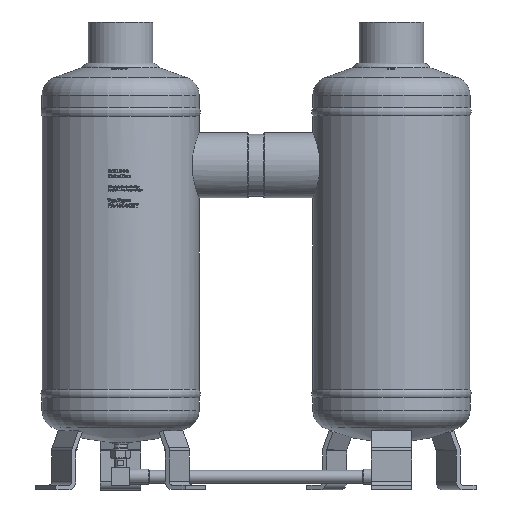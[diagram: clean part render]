
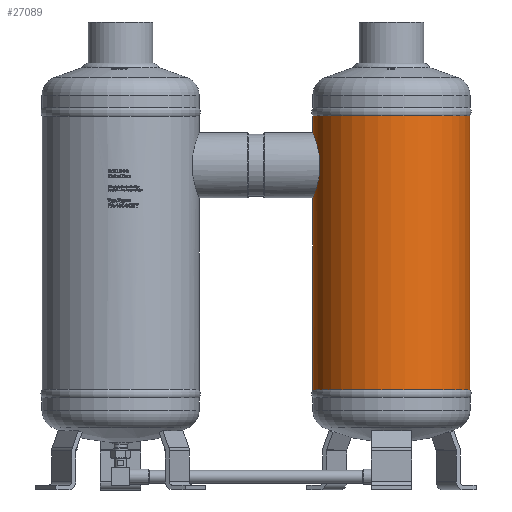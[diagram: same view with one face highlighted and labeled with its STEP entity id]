
A CAD part, top view. The second image highlights one B-rep face of the part: STEP entity #27089.
In plain terms, the highlighted cylindrical face has radius 136.5 mm (diameter 273 mm), a full revolution.
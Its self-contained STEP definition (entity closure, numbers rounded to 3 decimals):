
#1240=B_SPLINE_CURVE_WITH_KNOTS('',3,(#56785,#56786,#56787,#56788,#56789,
#56790,#56791,#56792,#56793,#56794,#56795,#56796,#56797,#56798,#56799,#56800,
#56801,#56802,#56803,#56804,#56805,#56806,#56807,#56808,#56809,#56810,#56811,
#56812,#56813,#56814,#56815,#56816,#56817,#56818,#56819),.UNSPECIFIED.,
 .F.,.F.,(4,2,2,2,2,2,2,2,3,2,2,2,2,2,2,2,4),(25.81,26.885,
27.96,29.035,30.11,31.186,32.262,
33.338,34.414,35.49,36.566,37.642,
38.718,39.793,40.868,41.943,43.017),
 .UNSPECIFIED.);
#1241=B_SPLINE_CURVE_WITH_KNOTS('',3,(#56820,#56821,#56822,#56823,#56824,
#56825,#56826,#56827,#56828,#56829,#56830,#56831,#56832,#56833,#56834,#56835,
#56836,#56837,#56838,#56839,#56840,#56841,#56842,#56843,#56844,#56845,#56846,
#56847,#56848,#56849,#56850,#56851,#56852,#56853),.UNSPECIFIED.,.F.,.F.,
(4,2,2,2,2,2,2,2,2,2,2,2,2,2,2,2,4),(8.603,9.678,
10.753,11.828,12.903,13.979,15.055,
16.131,17.207,18.283,19.359,20.435,
21.511,22.586,23.661,24.736,25.81),
 .UNSPECIFIED.);
#2760=FACE_BOUND('',#6025,.T.);
#2761=FACE_BOUND('',#6026,.T.);
#4255=FACE_OUTER_BOUND('',#6024,.T.);
#6024=EDGE_LOOP('',(#25248));
#6025=EDGE_LOOP('',(#25249,#25250));
#6026=EDGE_LOOP('',(#25251));
#10905=CIRCLE('',#29273,136.5);
#10906=CIRCLE('',#29274,136.5);
#13554=VERTEX_POINT('',#56781);
#13555=VERTEX_POINT('',#56783);
#13556=VERTEX_POINT('',#56784);
#13557=VERTEX_POINT('',#56854);
#17465=EDGE_CURVE('',#13554,#13554,#10905,.T.);
#17466=EDGE_CURVE('',#13555,#13556,#1240,.T.);
#17467=EDGE_CURVE('',#13556,#13555,#1241,.T.);
#17468=EDGE_CURVE('',#13557,#13557,#10906,.T.);
#25248=ORIENTED_EDGE('',*,*,#17465,.T.);
#25249=ORIENTED_EDGE('',*,*,#17466,.T.);
#25250=ORIENTED_EDGE('',*,*,#17467,.T.);
#25251=ORIENTED_EDGE('',*,*,#17468,.T.);
#25600=CYLINDRICAL_SURFACE('',#29272,136.5);
#27089=ADVANCED_FACE('',(#4255,#2760,#2761),#25600,.T.);
#29272=AXIS2_PLACEMENT_3D('',#56780,#35470,#35471);
#29273=AXIS2_PLACEMENT_3D('',#56782,#35472,#35473);
#29274=AXIS2_PLACEMENT_3D('',#56855,#35474,#35475);
#35470=DIRECTION('center_axis',(0.,-1.,0.));
#35471=DIRECTION('ref_axis',(1.,0.,0.));
#35472=DIRECTION('center_axis',(0.,1.,0.));
#35473=DIRECTION('ref_axis',(1.,0.,0.));
#35474=DIRECTION('center_axis',(0.,-1.,0.));
#35475=DIRECTION('ref_axis',(1.,0.,0.));
#56780=CARTESIAN_POINT('Origin',(471.,242.5,0.));
#56781=CARTESIAN_POINT('',(471.,5.,136.5));
#56782=CARTESIAN_POINT('Origin',(471.,5.,0.));
#56783=CARTESIAN_POINT('',(334.5,451.35,0.));
#56784=CARTESIAN_POINT('',(334.5,338.65,0.));
#56785=CARTESIAN_POINT('Ctrl Pts',(334.5,451.35,0.));
#56786=CARTESIAN_POINT('Ctrl Pts',(334.5,451.35,3.583));
#56787=CARTESIAN_POINT('Ctrl Pts',(334.645,451.003,7.274));
#56788=CARTESIAN_POINT('Ctrl Pts',(335.233,449.556,14.592));
#56789=CARTESIAN_POINT('Ctrl Pts',(335.676,448.456,18.217));
#56790=CARTESIAN_POINT('Ctrl Pts',(336.791,445.567,25.147));
#56791=CARTESIAN_POINT('Ctrl Pts',(337.463,443.775,28.459));
#56792=CARTESIAN_POINT('Ctrl Pts',(338.913,439.653,34.569));
#56793=CARTESIAN_POINT('Ctrl Pts',(339.689,437.322,37.369));
#56794=CARTESIAN_POINT('Ctrl Pts',(341.202,432.366,42.325));
#56795=CARTESIAN_POINT('Ctrl Pts',(341.993,429.565,44.656));
#56796=CARTESIAN_POINT('Ctrl Pts',(343.494,423.455,48.777));
#56797=CARTESIAN_POINT('Ctrl Pts',(344.202,420.146,50.568));
#56798=CARTESIAN_POINT('Ctrl Pts',(345.392,413.22,53.455));
#56799=CARTESIAN_POINT('Ctrl Pts',(345.873,409.596,54.554));
#56800=CARTESIAN_POINT('Ctrl Pts',(346.514,402.28,56.002));
#56801=CARTESIAN_POINT('Ctrl Pts',(346.674,398.587,56.35));
#56802=CARTESIAN_POINT('Ctrl Pts',(346.674,395.,56.35));
#56803=CARTESIAN_POINT('Ctrl Pts',(346.674,391.413,56.35));
#56804=CARTESIAN_POINT('Ctrl Pts',(346.514,387.72,56.002));
#56805=CARTESIAN_POINT('Ctrl Pts',(345.873,380.404,54.554));
#56806=CARTESIAN_POINT('Ctrl Pts',(345.392,376.78,53.455));
#56807=CARTESIAN_POINT('Ctrl Pts',(344.202,369.854,50.568));
#56808=CARTESIAN_POINT('Ctrl Pts',(343.494,366.545,48.777));
#56809=CARTESIAN_POINT('Ctrl Pts',(341.993,360.435,44.656));
#56810=CARTESIAN_POINT('Ctrl Pts',(341.202,357.634,42.325));
#56811=CARTESIAN_POINT('Ctrl Pts',(339.689,352.678,37.369));
#56812=CARTESIAN_POINT('Ctrl Pts',(338.913,350.347,34.569));
#56813=CARTESIAN_POINT('Ctrl Pts',(337.463,346.225,28.459));
#56814=CARTESIAN_POINT('Ctrl Pts',(336.791,344.433,25.147));
#56815=CARTESIAN_POINT('Ctrl Pts',(335.676,341.544,18.217));
#56816=CARTESIAN_POINT('Ctrl Pts',(335.233,340.444,14.592));
#56817=CARTESIAN_POINT('Ctrl Pts',(334.645,338.997,7.274));
#56818=CARTESIAN_POINT('Ctrl Pts',(334.5,338.65,3.583));
#56819=CARTESIAN_POINT('Ctrl Pts',(334.5,338.65,0.));
#56820=CARTESIAN_POINT('Ctrl Pts',(334.5,338.65,0.));
#56821=CARTESIAN_POINT('Ctrl Pts',(334.5,338.65,-3.583));
#56822=CARTESIAN_POINT('Ctrl Pts',(334.645,338.997,-7.274));
#56823=CARTESIAN_POINT('Ctrl Pts',(335.233,340.444,-14.592));
#56824=CARTESIAN_POINT('Ctrl Pts',(335.676,341.544,-18.217));
#56825=CARTESIAN_POINT('Ctrl Pts',(336.791,344.433,-25.147));
#56826=CARTESIAN_POINT('Ctrl Pts',(337.463,346.225,-28.459));
#56827=CARTESIAN_POINT('Ctrl Pts',(338.913,350.347,-34.569));
#56828=CARTESIAN_POINT('Ctrl Pts',(339.689,352.678,-37.369));
#56829=CARTESIAN_POINT('Ctrl Pts',(341.202,357.634,-42.325));
#56830=CARTESIAN_POINT('Ctrl Pts',(341.993,360.435,-44.656));
#56831=CARTESIAN_POINT('Ctrl Pts',(343.494,366.545,-48.777));
#56832=CARTESIAN_POINT('Ctrl Pts',(344.202,369.854,-50.568));
#56833=CARTESIAN_POINT('Ctrl Pts',(345.392,376.78,-53.455));
#56834=CARTESIAN_POINT('Ctrl Pts',(345.873,380.404,-54.554));
#56835=CARTESIAN_POINT('Ctrl Pts',(346.514,387.72,-56.002));
#56836=CARTESIAN_POINT('Ctrl Pts',(346.674,391.413,-56.35));
#56837=CARTESIAN_POINT('Ctrl Pts',(346.674,398.587,-56.35));
#56838=CARTESIAN_POINT('Ctrl Pts',(346.514,402.28,-56.002));
#56839=CARTESIAN_POINT('Ctrl Pts',(345.873,409.596,-54.554));
#56840=CARTESIAN_POINT('Ctrl Pts',(345.392,413.22,-53.455));
#56841=CARTESIAN_POINT('Ctrl Pts',(344.202,420.146,-50.568));
#56842=CARTESIAN_POINT('Ctrl Pts',(343.494,423.455,-48.777));
#56843=CARTESIAN_POINT('Ctrl Pts',(341.993,429.565,-44.656));
#56844=CARTESIAN_POINT('Ctrl Pts',(341.202,432.366,-42.325));
#56845=CARTESIAN_POINT('Ctrl Pts',(339.689,437.322,-37.369));
#56846=CARTESIAN_POINT('Ctrl Pts',(338.913,439.653,-34.569));
#56847=CARTESIAN_POINT('Ctrl Pts',(337.463,443.775,-28.459));
#56848=CARTESIAN_POINT('Ctrl Pts',(336.791,445.567,-25.147));
#56849=CARTESIAN_POINT('Ctrl Pts',(335.676,448.456,-18.217));
#56850=CARTESIAN_POINT('Ctrl Pts',(335.233,449.556,-14.592));
#56851=CARTESIAN_POINT('Ctrl Pts',(334.645,451.003,-7.274));
#56852=CARTESIAN_POINT('Ctrl Pts',(334.5,451.35,-3.583));
#56853=CARTESIAN_POINT('Ctrl Pts',(334.5,451.35,0.));
#56854=CARTESIAN_POINT('',(471.,480.819,136.5));
#56855=CARTESIAN_POINT('Origin',(471.,480.819,0.));
